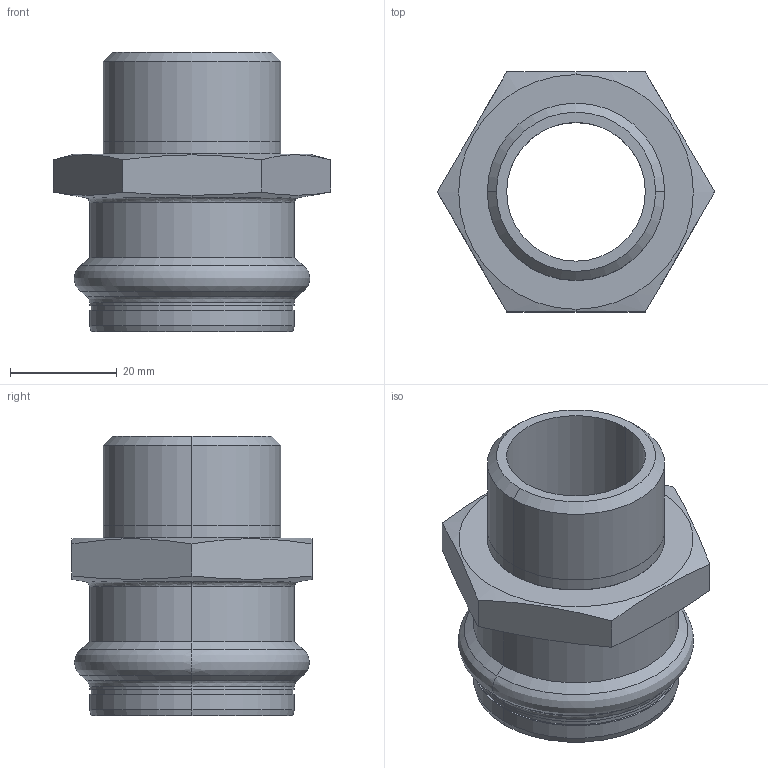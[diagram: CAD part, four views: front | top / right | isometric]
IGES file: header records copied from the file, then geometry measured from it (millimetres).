
Start section: Elysium IGES Interface
Global section: file name: C:\Users\Wallenburg\Desktop\3d modellen sudo\S-Pr VP\SP6243GV\6243GVW351.igs; native system: CoCreate Modeling 17.00A  17-Jun-2010; preprocessor: CoCreate IGES_3D V2.2; author: Unknown; organization: Unknown; date: 20130124.141310; units: millimetre
Bounding box: 51.96 x 45 x 52.4 mm (x, y, z)
Volume: 21831.3 mm3; surface area: 14013.2 mm2
Topology: 1 solids, 1 shells, 57 faces, 128 edges, 76 vertices
Faces by surface type: bspline 57
